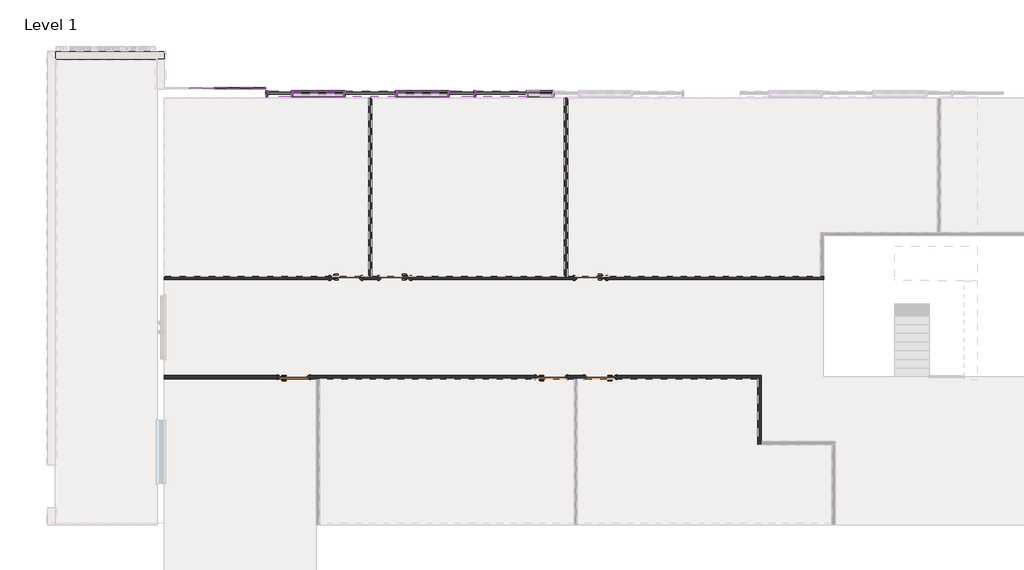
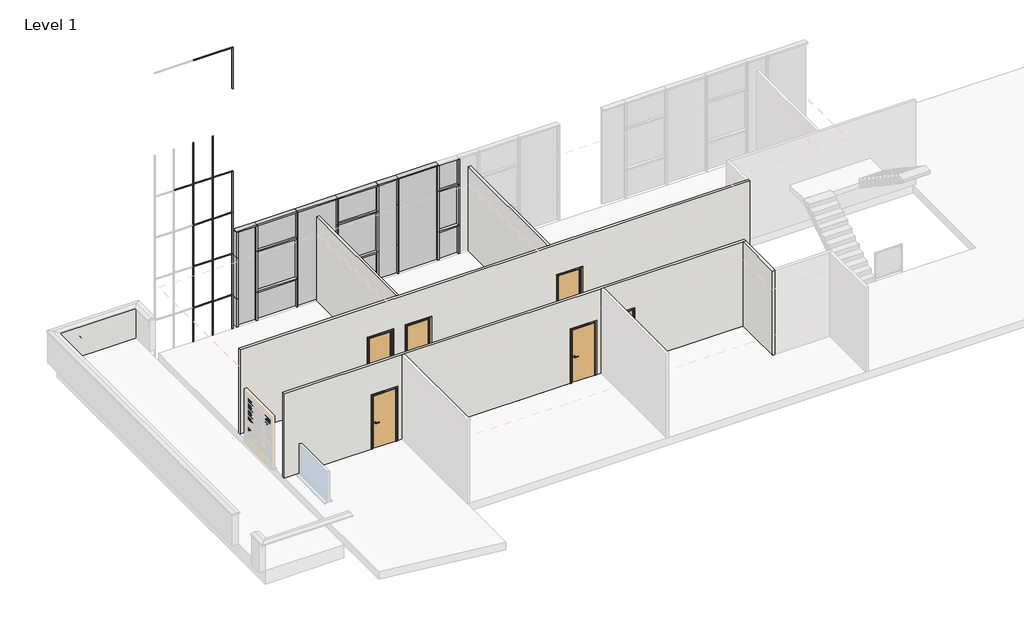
# One storey, part 4 of 10: 75 members, 13 plates, 6 doors, 6 walls.
"""IFC4 building model written with IfcOpenShell, lengths in millimetres."""

from ifc_helpers import new_model, si_unit, frame, origin, place, context, project, spatial, polyline, outline, extrude, faceted_brep, transform, mapped, element, save
from components import doors_intsgl_1_910x2110mm_004a08d5, doors_intsgl_1_910x2110mm_ba118736, rectangular_mullion_25x25mm_c4f1ea1c, rectangular_mullion_25x25mm_aa09272d, rectangular_mullion_25x25mm_87b81b05, rectangular_mullion_25x25mm_c524c6a9, rectangular_mullion_25x25mm_a3ff25c1, rectangular_mullion_25x25mm_a7b21d2d, rectangular_mullion_25x25mm_c63ed219, rectangular_mullion_50x180mm_27940352, rectangular_mullion_50x180mm_f781141c, rectangular_mullion_50x180mm_fd91253e, rectangular_mullion_50x180mm_cfc9efda, rectangular_mullion_50x180mm_c30fec06, rectangular_mullion_50x180mm_55b63a96, rectangular_mullion_50x180mm_7153291d, rectangular_mullion_50x180mm_95299f7d, rectangular_mullion_50x180mm_f19e9633, rectangular_mullion_50x180mm_b6846536, system_panel_black_panel_9c91f909, system_panel_black_panel_9e4711d2, system_panel_dark_grey_panel_1d6e0621, system_panel_glazed_dd63f223, system_panel_glazed_4915e1a0, system_panel_white_panel_6a64f577, system_panel_white_panel_a9ca731a, system_panel_white_panel_6c6c8c82, system_panel_white_panel_ff540c20

model = new_model("IFC4")

# Units and contexts
model_context = context("Model", 3, world=origin())
ifc_project = project(units=[si_unit("LENGTHUNIT", "METRE", prefix="MILLI")], contexts=[model_context])

# Site, building, storey
site = spatial("IfcSite", under=ifc_project)
building = spatial("IfcBuilding", under=site)
storey = spatial("IfcBuildingStorey", under=building, Name="Level 1", Elevation=3750.0)

# Doors
placement = place(None, origin())
doors_intsgl_1_910x2110mm_shape = doors_intsgl_1_910x2110mm_004a08d5(model_context)
element("IfcDoor", 1, ObjectType="Doors_IntSgl_1 : 910x2110mm", at=placement, inside=storey, context=model_context, shape_type="MappedRepresentation", body=[
    mapped(doors_intsgl_1_910x2110mm_shape, transform((3778.2942367, 3837.3025486, 3750.0), x_axis=(1.0, 0.0, 0.0), y_axis=(0.0, 1.0, 0.0), z_axis=(0.0, 0.0, 1.0))),
])
element("IfcDoor", 2, ObjectType="Doors_IntSgl_1 : 910x2110mm", at=placement, inside=storey, context=model_context, shape_type="MappedRepresentation", body=[
    mapped(doors_intsgl_1_910x2110mm_shape, transform((11085.7942367, 987.4946591, 3750.0), x_axis=(-1.0, 0.0, 0.0), y_axis=(0.0, -1.0, 0.0), z_axis=(0.0, 0.0, 1.0))),
])
doors_intsgl_1_910x2110mm_2_shape = doors_intsgl_1_910x2110mm_ba118736(model_context)
element("IfcDoor", 3, ObjectType="Doors_IntSgl_1 : 910x2110mm", at=placement, inside=storey, context=model_context, shape_type="MappedRepresentation", body=[
    mapped(doors_intsgl_1_910x2110mm_2_shape, transform((5183.2942367, 3837.3025486, 3750.0), x_axis=(-1.0, 0.0, 0.0), y_axis=(0.0, -1.0, 0.0), z_axis=(0.0, 0.0, 1.0))),
])
element("IfcDoor", 4, ObjectType="Doors_IntSgl_1 : 910x2110mm", at=placement, inside=storey, context=model_context, shape_type="MappedRepresentation", body=[
    mapped(doors_intsgl_1_910x2110mm_2_shape, transform((10808.2942367, 3837.3025486, 3750.0), x_axis=(-1.0, 0.0, 0.0), y_axis=(0.0, -1.0, 0.0), z_axis=(0.0, 0.0, 1.0))),
])
element("IfcDoor", 5, ObjectType="Doors_IntSgl_1 : 910x2110mm", at=placement, inside=storey, context=model_context, shape_type="MappedRepresentation", body=[
    mapped(doors_intsgl_1_910x2110mm_2_shape, transform((9680.7942367, 987.4946591, 3750.0), x_axis=(1.0, 0.0, 0.0), y_axis=(0.0, 1.0, 0.0), z_axis=(0.0, 0.0, 1.0))),
])
element("IfcDoor", 6, ObjectType="Doors_IntSgl_1 : 910x2110mm", at=placement, inside=storey, context=model_context, shape_type="MappedRepresentation", body=[
    mapped(doors_intsgl_1_910x2110mm_2_shape, transform((2280.7942367, 987.4946591, 3750.0), x_axis=(1.0, 0.0, 0.0), y_axis=(0.0, 1.0, 0.0), z_axis=(0.0, 0.0, 1.0))),
])

# Members
rectangular_mullion_25x25mm_shape = rectangular_mullion_25x25mm_c4f1ea1c(model_context)
element("IfcMember", 7, ObjectType="Rectangular Mullion : 25x25mm", at=placement, inside=storey, context=model_context, shape_type="MappedRepresentation", body=[
    mapped(rectangular_mullion_25x25mm_shape, transform((740.7900968, 9282.4946591, 14600.0), x_axis=(0.0, 0.0, 1.0), y_axis=(0.0, 1.0, 0.0), z_axis=(-1.0, 0.0, 0.0))),
])
rectangular_mullion_25x25mm_2_shape = rectangular_mullion_25x25mm_aa09272d(model_context)
element("IfcMember", 8, ObjectType="Rectangular Mullion : 25x25mm", at=placement, inside=storey, context=model_context, shape_type="MappedRepresentation", body=[
    mapped(rectangular_mullion_25x25mm_2_shape, transform((13.2859573, 9282.4946591, 14600.0), x_axis=(0.0, 0.0, 1.0), y_axis=(0.0, 1.0, 0.0), z_axis=(-1.0, 0.0, 0.0))),
])
element("IfcMember", 9, ObjectType="Rectangular Mullion : 25x25mm", at=placement, inside=storey, context=model_context, shape_type="MappedRepresentation", body=[
    mapped(rectangular_mullion_25x25mm_shape, transform((1480.7942367, 9282.4946591, 0.0), x_axis=(0.0, 0.0, -1.0), y_axis=(0.0, 1.0, 0.0), z_axis=(1.0, 0.0, 0.0))),
])
element("IfcMember", 10, ObjectType="Rectangular Mullion : 25x25mm", at=placement, inside=storey, context=model_context, shape_type="MappedRepresentation", body=[
    mapped(rectangular_mullion_25x25mm_2_shape, transform((740.7900968, 9282.4946591, 0.0), x_axis=(0.0, 0.0, -1.0), y_axis=(0.0, 1.0, 0.0), z_axis=(1.0, 0.0, 0.0))),
])
element("IfcMember", 11, ObjectType="Rectangular Mullion : 25x25mm", at=placement, inside=storey, context=model_context, shape_type="MappedRepresentation", body=[
    mapped(rectangular_mullion_25x25mm_2_shape, transform((13.2859573, 9282.4946591, 0.0), x_axis=(0.0, 0.0, -1.0), y_axis=(0.0, 1.0, 0.0), z_axis=(1.0, 0.0, 0.0))),
])
rectangular_mullion_25x25mm_3_shape = rectangular_mullion_25x25mm_87b81b05(model_context)
element("IfcMember", 12, ObjectType="Rectangular Mullion : 25x25mm", at=placement, inside=storey, context=model_context, shape_type="MappedRepresentation", body=[
    mapped(rectangular_mullion_25x25mm_3_shape, transform((753.2900968, 9282.4946591, 1631.9444444), x_axis=(0.0, 0.0, 1.0), y_axis=(0.0, 1.0, 0.0), z_axis=(-1.0, 0.0, 0.0))),
])
element("IfcMember", 13, ObjectType="Rectangular Mullion : 25x25mm", at=placement, inside=storey, context=model_context, shape_type="MappedRepresentation", body=[
    mapped(rectangular_mullion_25x25mm_3_shape, transform((25.7859573, 9282.4946591, 1631.9444444), x_axis=(0.0, 0.0, 1.0), y_axis=(0.0, 1.0, 0.0), z_axis=(-1.0, 0.0, 0.0))),
])
element("IfcMember", 14, ObjectType="Rectangular Mullion : 25x25mm", at=placement, inside=storey, context=model_context, shape_type="MappedRepresentation", body=[
    mapped(rectangular_mullion_25x25mm_3_shape, transform((753.2900968, 9282.4946591, 3251.3888889), x_axis=(0.0, 0.0, 1.0), y_axis=(0.0, 1.0, 0.0), z_axis=(-1.0, 0.0, 0.0))),
])
element("IfcMember", 15, ObjectType="Rectangular Mullion : 25x25mm", at=placement, inside=storey, context=model_context, shape_type="MappedRepresentation", body=[
    mapped(rectangular_mullion_25x25mm_3_shape, transform((25.7859573, 9282.4946591, 3251.3888889), x_axis=(0.0, 0.0, 1.0), y_axis=(0.0, 1.0, 0.0), z_axis=(-1.0, 0.0, 0.0))),
])
element("IfcMember", 16, ObjectType="Rectangular Mullion : 25x25mm", at=placement, inside=storey, context=model_context, shape_type="MappedRepresentation", body=[
    mapped(rectangular_mullion_25x25mm_3_shape, transform((753.2900968, 9282.4946591, 4870.8333333), x_axis=(0.0, 0.0, 1.0), y_axis=(0.0, 1.0, 0.0), z_axis=(-1.0, 0.0, 0.0))),
])
element("IfcMember", 17, ObjectType="Rectangular Mullion : 25x25mm", at=placement, inside=storey, context=model_context, shape_type="MappedRepresentation", body=[
    mapped(rectangular_mullion_25x25mm_3_shape, transform((25.7859573, 9282.4946591, 4870.8333333), x_axis=(0.0, 0.0, 1.0), y_axis=(0.0, 1.0, 0.0), z_axis=(-1.0, 0.0, 0.0))),
])
element("IfcMember", 18, ObjectType="Rectangular Mullion : 25x25mm", at=placement, inside=storey, context=model_context, shape_type="MappedRepresentation", body=[
    mapped(rectangular_mullion_25x25mm_3_shape, transform((753.2900968, 9282.4946591, 6490.2777778), x_axis=(0.0, 0.0, 1.0), y_axis=(0.0, 1.0, 0.0), z_axis=(-1.0, 0.0, 0.0))),
])
element("IfcMember", 19, ObjectType="Rectangular Mullion : 25x25mm", at=placement, inside=storey, context=model_context, shape_type="MappedRepresentation", body=[
    mapped(rectangular_mullion_25x25mm_3_shape, transform((25.7859573, 9282.4946591, 6490.2777778), x_axis=(0.0, 0.0, 1.0), y_axis=(0.0, 1.0, 0.0), z_axis=(-1.0, 0.0, 0.0))),
])
element("IfcMember", 20, ObjectType="Rectangular Mullion : 25x25mm", at=placement, inside=storey, context=model_context, shape_type="MappedRepresentation", body=[
    mapped(rectangular_mullion_25x25mm_3_shape, transform((753.2900968, 9282.4946591, 8109.7222222), x_axis=(0.0, 0.0, 1.0), y_axis=(0.0, 1.0, 0.0), z_axis=(-1.0, 0.0, 0.0))),
])
element("IfcMember", 21, ObjectType="Rectangular Mullion : 25x25mm", at=placement, inside=storey, context=model_context, shape_type="MappedRepresentation", body=[
    mapped(rectangular_mullion_25x25mm_3_shape, transform((25.7859573, 9282.4946591, 8109.7222222), x_axis=(0.0, 0.0, 1.0), y_axis=(0.0, 1.0, 0.0), z_axis=(-1.0, 0.0, 0.0))),
])
element("IfcMember", 22, ObjectType="Rectangular Mullion : 25x25mm", at=placement, inside=storey, context=model_context, shape_type="MappedRepresentation", body=[
    mapped(rectangular_mullion_25x25mm_3_shape, transform((753.2900968, 9282.4946591, 9729.1666667), x_axis=(0.0, 0.0, 1.0), y_axis=(0.0, 1.0, 0.0), z_axis=(-1.0, 0.0, 0.0))),
])
element("IfcMember", 23, ObjectType="Rectangular Mullion : 25x25mm", at=placement, inside=storey, context=model_context, shape_type="MappedRepresentation", body=[
    mapped(rectangular_mullion_25x25mm_3_shape, transform((25.7859573, 9282.4946591, 9729.1666667), x_axis=(0.0, 0.0, 1.0), y_axis=(0.0, 1.0, 0.0), z_axis=(-1.0, 0.0, 0.0))),
])
element("IfcMember", 24, ObjectType="Rectangular Mullion : 25x25mm", at=placement, inside=storey, context=model_context, shape_type="MappedRepresentation", body=[
    mapped(rectangular_mullion_25x25mm_3_shape, transform((-701.7181823, 9282.4946591, 9729.1666667), x_axis=(0.0, 0.0, 1.0), y_axis=(0.0, 1.0, 0.0), z_axis=(-1.0, 0.0, 0.0))),
])
rectangular_mullion_25x25mm_4_shape = rectangular_mullion_25x25mm_c524c6a9(model_context)
element("IfcMember", 25, ObjectType="Rectangular Mullion : 25x25mm", at=placement, inside=storey, context=model_context, shape_type="MappedRepresentation", body=[
    mapped(rectangular_mullion_25x25mm_4_shape, transform((740.7900968, 9282.4946591, 25.0), x_axis=(-1.0, 0.0, 0.0), y_axis=(0.0, 1.0, 0.0), z_axis=(0.0, 0.0, -1.0))),
])
element("IfcMember", 26, ObjectType="Rectangular Mullion : 25x25mm", at=placement, inside=storey, context=model_context, shape_type="MappedRepresentation", body=[
    mapped(rectangular_mullion_25x25mm_4_shape, transform((13.2859573, 9282.4946591, 25.0), x_axis=(-1.0, 0.0, 0.0), y_axis=(0.0, 1.0, 0.0), z_axis=(0.0, 0.0, -1.0))),
])
rectangular_mullion_25x25mm_5_shape = rectangular_mullion_25x25mm_a3ff25c1(model_context)
element("IfcMember", 27, ObjectType="Rectangular Mullion : 25x25mm", at=placement, inside=storey, context=model_context, shape_type="MappedRepresentation", body=[
    mapped(rectangular_mullion_25x25mm_5_shape, transform((740.7900968, 9282.4946591, 1631.9444444), x_axis=(-1.0, 0.0, 0.0), y_axis=(0.0, 1.0, 0.0), z_axis=(0.0, 0.0, -1.0))),
])
element("IfcMember", 28, ObjectType="Rectangular Mullion : 25x25mm", at=placement, inside=storey, context=model_context, shape_type="MappedRepresentation", body=[
    mapped(rectangular_mullion_25x25mm_5_shape, transform((740.7900968, 9282.4946591, 3251.3888889), x_axis=(-1.0, 0.0, 0.0), y_axis=(0.0, 1.0, 0.0), z_axis=(0.0, 0.0, -1.0))),
])
element("IfcMember", 29, ObjectType="Rectangular Mullion : 25x25mm", at=placement, inside=storey, context=model_context, shape_type="MappedRepresentation", body=[
    mapped(rectangular_mullion_25x25mm_5_shape, transform((740.7900968, 9282.4946591, 4870.8333333), x_axis=(-1.0, 0.0, 0.0), y_axis=(0.0, 1.0, 0.0), z_axis=(0.0, 0.0, -1.0))),
])
element("IfcMember", 30, ObjectType="Rectangular Mullion : 25x25mm", at=placement, inside=storey, context=model_context, shape_type="MappedRepresentation", body=[
    mapped(rectangular_mullion_25x25mm_5_shape, transform((740.7900968, 9282.4946591, 6490.2777778), x_axis=(-1.0, 0.0, 0.0), y_axis=(0.0, 1.0, 0.0), z_axis=(0.0, 0.0, -1.0))),
])
element("IfcMember", 31, ObjectType="Rectangular Mullion : 25x25mm", at=placement, inside=storey, context=model_context, shape_type="MappedRepresentation", body=[
    mapped(rectangular_mullion_25x25mm_5_shape, transform((13.2859573, 9282.4946591, 1631.9444444), x_axis=(-1.0, 0.0, 0.0), y_axis=(0.0, 1.0, 0.0), z_axis=(0.0, 0.0, -1.0))),
])
element("IfcMember", 32, ObjectType="Rectangular Mullion : 25x25mm", at=placement, inside=storey, context=model_context, shape_type="MappedRepresentation", body=[
    mapped(rectangular_mullion_25x25mm_5_shape, transform((13.2859573, 9282.4946591, 3251.3888889), x_axis=(-1.0, 0.0, 0.0), y_axis=(0.0, 1.0, 0.0), z_axis=(0.0, 0.0, -1.0))),
])
element("IfcMember", 33, ObjectType="Rectangular Mullion : 25x25mm", at=placement, inside=storey, context=model_context, shape_type="MappedRepresentation", body=[
    mapped(rectangular_mullion_25x25mm_5_shape, transform((13.2859573, 9282.4946591, 4870.8333333), x_axis=(-1.0, 0.0, 0.0), y_axis=(0.0, 1.0, 0.0), z_axis=(0.0, 0.0, -1.0))),
])
element("IfcMember", 34, ObjectType="Rectangular Mullion : 25x25mm", at=placement, inside=storey, context=model_context, shape_type="MappedRepresentation", body=[
    mapped(rectangular_mullion_25x25mm_5_shape, transform((13.2859573, 9282.4946591, 6490.2777778), x_axis=(-1.0, 0.0, 0.0), y_axis=(0.0, 1.0, 0.0), z_axis=(0.0, 0.0, -1.0))),
])
element("IfcMember", 35, ObjectType="Rectangular Mullion : 25x25mm", at=placement, inside=storey, context=model_context, shape_type="MappedRepresentation", body=[
    mapped(rectangular_mullion_25x25mm_5_shape, transform((740.7900968, 9282.4946591, 8109.7222222), x_axis=(-1.0, 0.0, 0.0), y_axis=(0.0, 1.0, 0.0), z_axis=(0.0, 0.0, -1.0))),
])
element("IfcMember", 36, ObjectType="Rectangular Mullion : 25x25mm", at=placement, inside=storey, context=model_context, shape_type="MappedRepresentation", body=[
    mapped(rectangular_mullion_25x25mm_5_shape, transform((740.7900968, 9282.4946591, 9729.1666667), x_axis=(-1.0, 0.0, 0.0), y_axis=(0.0, 1.0, 0.0), z_axis=(0.0, 0.0, -1.0))),
])
element("IfcMember", 37, ObjectType="Rectangular Mullion : 25x25mm", at=placement, inside=storey, context=model_context, shape_type="MappedRepresentation", body=[
    mapped(rectangular_mullion_25x25mm_5_shape, transform((13.2859573, 9282.4946591, 8109.7222222), x_axis=(-1.0, 0.0, 0.0), y_axis=(0.0, 1.0, 0.0), z_axis=(0.0, 0.0, -1.0))),
])
element("IfcMember", 38, ObjectType="Rectangular Mullion : 25x25mm", at=placement, inside=storey, context=model_context, shape_type="MappedRepresentation", body=[
    mapped(rectangular_mullion_25x25mm_5_shape, transform((13.2859573, 9282.4946591, 9729.1666667), x_axis=(-1.0, 0.0, 0.0), y_axis=(0.0, 1.0, 0.0), z_axis=(0.0, 0.0, -1.0))),
])
rectangular_mullion_25x25mm_6_shape = rectangular_mullion_25x25mm_a7b21d2d(model_context)
element("IfcMember", 39, ObjectType="Rectangular Mullion : 25x25mm", at=placement, inside=storey, context=model_context, shape_type="MappedRepresentation", body=[
    mapped(rectangular_mullion_25x25mm_6_shape, transform((1480.7942367, 9282.4946591, 1631.9444444), x_axis=(1.0, 0.0, 0.0), y_axis=(0.0, 1.0, 0.0), z_axis=(0.0, 0.0, 1.0))),
])
rectangular_mullion_25x25mm_7_shape = rectangular_mullion_25x25mm_c63ed219(model_context)
element("IfcMember", 40, ObjectType="Rectangular Mullion : 25x25mm", at=placement, inside=storey, context=model_context, shape_type="MappedRepresentation", body=[
    mapped(rectangular_mullion_25x25mm_7_shape, transform((1480.7942367, 9282.4946591, 3251.3888889), x_axis=(1.0, 0.0, 0.0), y_axis=(0.0, 1.0, 0.0), z_axis=(0.0, 0.0, 1.0))),
])
element("IfcMember", 41, ObjectType="Rectangular Mullion : 25x25mm", at=placement, inside=storey, context=model_context, shape_type="MappedRepresentation", body=[
    mapped(rectangular_mullion_25x25mm_7_shape, transform((1480.7942367, 9282.4946591, 4870.8333333), x_axis=(1.0, 0.0, 0.0), y_axis=(0.0, 1.0, 0.0), z_axis=(0.0, 0.0, 1.0))),
])
element("IfcMember", 42, ObjectType="Rectangular Mullion : 25x25mm", at=placement, inside=storey, context=model_context, shape_type="MappedRepresentation", body=[
    mapped(rectangular_mullion_25x25mm_7_shape, transform((1480.7942367, 9282.4946591, 6490.2777778), x_axis=(1.0, 0.0, 0.0), y_axis=(0.0, 1.0, 0.0), z_axis=(0.0, 0.0, 1.0))),
])
element("IfcMember", 43, ObjectType="Rectangular Mullion : 25x25mm", at=placement, inside=storey, context=model_context, shape_type="MappedRepresentation", body=[
    mapped(rectangular_mullion_25x25mm_7_shape, transform((1480.7942367, 9282.4946591, 8109.7222222), x_axis=(1.0, 0.0, 0.0), y_axis=(0.0, 1.0, 0.0), z_axis=(0.0, 0.0, 1.0))),
])
element("IfcMember", 44, ObjectType="Rectangular Mullion : 25x25mm", at=placement, inside=storey, context=model_context, shape_type="MappedRepresentation", body=[
    mapped(rectangular_mullion_25x25mm_7_shape, transform((1480.7942367, 9282.4946591, 9729.1666667), x_axis=(1.0, 0.0, 0.0), y_axis=(0.0, 1.0, 0.0), z_axis=(0.0, 0.0, 1.0))),
])
element("IfcMember", 45, ObjectType="Rectangular Mullion : 25x25mm", at=placement, inside=storey, context=model_context, shape_type="MappedRepresentation", body=[
    mapped(rectangular_mullion_25x25mm_6_shape, transform((1480.7942367, 9282.4946591, 14575.0), x_axis=(1.0, 0.0, 0.0), y_axis=(0.0, 1.0, 0.0), z_axis=(0.0, 0.0, 1.0))),
])
rectangular_mullion_50x180mm_shape = rectangular_mullion_50x180mm_27940352(model_context)
element("IfcMember", 46, ObjectType="Rectangular Mullion : 50x180mm", at=placement, inside=storey, context=model_context, shape_type="MappedRepresentation", body=[
    mapped(rectangular_mullion_50x180mm_shape, transform((9730.7942367, 9132.4946591, 3750.0), x_axis=(1.0, 0.0, 0.0), y_axis=(0.0, -1.0, 0.0), z_axis=(0.0, 0.0, -1.0))),
])
element("IfcMember", 47, ObjectType="Rectangular Mullion : 50x180mm", at=placement, inside=storey, context=model_context, shape_type="MappedRepresentation", body=[
    mapped(rectangular_mullion_50x180mm_shape, transform((8980.7942367, 9132.4946591, 3750.0), x_axis=(1.0, 0.0, 0.0), y_axis=(0.0, -1.0, 0.0), z_axis=(0.0, 0.0, -1.0))),
])
element("IfcMember", 48, ObjectType="Rectangular Mullion : 50x180mm", at=placement, inside=storey, context=model_context, shape_type="MappedRepresentation", body=[
    mapped(rectangular_mullion_50x180mm_shape, transform((6730.7942367, 9132.4946591, 3750.0), x_axis=(1.0, 0.0, 0.0), y_axis=(0.0, -1.0, 0.0), z_axis=(0.0, 0.0, -1.0))),
])
element("IfcMember", 49, ObjectType="Rectangular Mullion : 50x180mm", at=placement, inside=storey, context=model_context, shape_type="MappedRepresentation", body=[
    mapped(rectangular_mullion_50x180mm_shape, transform((5230.7942367, 9132.4946591, 3750.0), x_axis=(1.0, 0.0, 0.0), y_axis=(0.0, -1.0, 0.0), z_axis=(0.0, 0.0, -1.0))),
])
element("IfcMember", 50, ObjectType="Rectangular Mullion : 50x180mm", at=placement, inside=storey, context=model_context, shape_type="MappedRepresentation", body=[
    mapped(rectangular_mullion_50x180mm_shape, transform((2230.7942367, 9132.4946591, 3750.0), x_axis=(1.0, 0.0, 0.0), y_axis=(0.0, -1.0, 0.0), z_axis=(0.0, 0.0, -1.0))),
])
element("IfcMember", 51, ObjectType="Rectangular Mullion : 50x180mm", at=placement, inside=storey, context=model_context, shape_type="MappedRepresentation", body=[
    mapped(rectangular_mullion_50x180mm_shape, transform((3730.7942367, 9132.4946591, 3750.0), x_axis=(1.0, 0.0, 0.0), y_axis=(0.0, -1.0, 0.0), z_axis=(0.0, 0.0, -1.0))),
])
element("IfcMember", 52, ObjectType="Rectangular Mullion : 50x180mm", at=placement, inside=storey, context=model_context, shape_type="MappedRepresentation", body=[
    mapped(rectangular_mullion_50x180mm_shape, transform((7480.7942367, 9132.4946591, 3750.0), x_axis=(1.0, 0.0, 0.0), y_axis=(0.0, -1.0, 0.0), z_axis=(0.0, 0.0, -1.0))),
])
rectangular_mullion_50x180mm_2_shape = rectangular_mullion_50x180mm_f781141c(model_context)
element("IfcMember", 53, ObjectType="Rectangular Mullion : 50x180mm", at=placement, inside=storey, context=model_context, shape_type="MappedRepresentation", body=[
    mapped(rectangular_mullion_50x180mm_2_shape, transform((2230.7942367, 9132.4946591, 4850.0), x_axis=(1.0, 0.0, 0.0), y_axis=(0.0, -1.0, 0.0), z_axis=(0.0, 0.0, -1.0))),
])
element("IfcMember", 54, ObjectType="Rectangular Mullion : 50x180mm", at=placement, inside=storey, context=model_context, shape_type="MappedRepresentation", body=[
    mapped(rectangular_mullion_50x180mm_2_shape, transform((3730.7942367, 9132.4946591, 4850.0), x_axis=(1.0, 0.0, 0.0), y_axis=(0.0, -1.0, 0.0), z_axis=(0.0, 0.0, -1.0))),
])
element("IfcMember", 55, ObjectType="Rectangular Mullion : 50x180mm", at=placement, inside=storey, context=model_context, shape_type="MappedRepresentation", body=[
    mapped(rectangular_mullion_50x180mm_2_shape, transform((5230.7942367, 9132.4946591, 4850.0), x_axis=(1.0, 0.0, 0.0), y_axis=(0.0, -1.0, 0.0), z_axis=(0.0, 0.0, -1.0))),
])
element("IfcMember", 56, ObjectType="Rectangular Mullion : 50x180mm", at=placement, inside=storey, context=model_context, shape_type="MappedRepresentation", body=[
    mapped(rectangular_mullion_50x180mm_2_shape, transform((6730.7942367, 9132.4946591, 4850.0), x_axis=(1.0, 0.0, 0.0), y_axis=(0.0, -1.0, 0.0), z_axis=(0.0, 0.0, -1.0))),
])
element("IfcMember", 57, ObjectType="Rectangular Mullion : 50x180mm", at=placement, inside=storey, context=model_context, shape_type="MappedRepresentation", body=[
    mapped(rectangular_mullion_50x180mm_2_shape, transform((8980.7942367, 9132.4946591, 4850.0), x_axis=(1.0, 0.0, 0.0), y_axis=(0.0, -1.0, 0.0), z_axis=(0.0, 0.0, -1.0))),
])
element("IfcMember", 58, ObjectType="Rectangular Mullion : 50x180mm", at=placement, inside=storey, context=model_context, shape_type="MappedRepresentation", body=[
    mapped(rectangular_mullion_50x180mm_2_shape, transform((9730.7942367, 9132.4946591, 4850.0), x_axis=(1.0, 0.0, 0.0), y_axis=(0.0, -1.0, 0.0), z_axis=(0.0, 0.0, -1.0))),
])
element("IfcMember", 59, ObjectType="Rectangular Mullion : 50x180mm", at=placement, inside=storey, context=model_context, shape_type="MappedRepresentation", body=[
    mapped(rectangular_mullion_50x180mm_2_shape, transform((7480.7942367, 9132.4946591, 4850.0), x_axis=(1.0, 0.0, 0.0), y_axis=(0.0, -1.0, 0.0), z_axis=(0.0, 0.0, -1.0))),
])
rectangular_mullion_50x180mm_3_shape = rectangular_mullion_50x180mm_fd91253e(model_context)
element("IfcMember", 60, ObjectType="Rectangular Mullion : 50x180mm", at=placement, inside=storey, context=model_context, shape_type="MappedRepresentation", body=[
    mapped(rectangular_mullion_50x180mm_3_shape, transform((3705.7942367, 9132.4946591, 4850.0), x_axis=(0.0, 0.0, 1.0), y_axis=(0.0, -1.0, 0.0), z_axis=(1.0, 0.0, 0.0))),
])
element("IfcMember", 61, ObjectType="Rectangular Mullion : 50x180mm", at=placement, inside=storey, context=model_context, shape_type="MappedRepresentation", body=[
    mapped(rectangular_mullion_50x180mm_3_shape, transform((6705.7942367, 9132.4946591, 4850.0), x_axis=(0.0, 0.0, 1.0), y_axis=(0.0, -1.0, 0.0), z_axis=(1.0, 0.0, 0.0))),
])
element("IfcMember", 62, ObjectType="Rectangular Mullion : 50x180mm", at=placement, inside=storey, context=model_context, shape_type="MappedRepresentation", body=[
    mapped(rectangular_mullion_50x180mm_3_shape, transform((3705.7942367, 9132.4946591, 6450.0), x_axis=(0.0, 0.0, 1.0), y_axis=(0.0, -1.0, 0.0), z_axis=(1.0, 0.0, 0.0))),
])
element("IfcMember", 63, ObjectType="Rectangular Mullion : 50x180mm", at=placement, inside=storey, context=model_context, shape_type="MappedRepresentation", body=[
    mapped(rectangular_mullion_50x180mm_3_shape, transform((6705.7942367, 9132.4946591, 6450.0), x_axis=(0.0, 0.0, 1.0), y_axis=(0.0, -1.0, 0.0), z_axis=(1.0, 0.0, 0.0))),
])
rectangular_mullion_50x180mm_4_shape = rectangular_mullion_50x180mm_cfc9efda(model_context)
element("IfcMember", 64, ObjectType="Rectangular Mullion : 50x180mm", at=placement, inside=storey, context=model_context, shape_type="MappedRepresentation", body=[
    mapped(rectangular_mullion_50x180mm_4_shape, transform((9705.7942367, 9132.4946591, 6450.0), x_axis=(0.0, 0.0, 1.0), y_axis=(0.0, -1.0, 0.0), z_axis=(1.0, 0.0, 0.0))),
])
element("IfcMember", 65, ObjectType="Rectangular Mullion : 50x180mm", at=placement, inside=storey, context=model_context, shape_type="MappedRepresentation", body=[
    mapped(rectangular_mullion_50x180mm_4_shape, transform((9705.7942367, 9132.4946591, 4850.0), x_axis=(0.0, 0.0, 1.0), y_axis=(0.0, -1.0, 0.0), z_axis=(1.0, 0.0, 0.0))),
])
rectangular_mullion_50x180mm_5_shape = rectangular_mullion_50x180mm_c30fec06(model_context)
element("IfcMember", 66, ObjectType="Rectangular Mullion : 50x180mm", at=placement, inside=storey, context=model_context, shape_type="MappedRepresentation", body=[
    mapped(rectangular_mullion_50x180mm_5_shape, transform((3730.7942367, 9132.4946591, 7500.0), x_axis=(0.0, 0.0, 1.0), y_axis=(0.0, -1.0, 0.0), z_axis=(1.0, 0.0, 0.0))),
])
element("IfcMember", 67, ObjectType="Rectangular Mullion : 50x180mm", at=placement, inside=storey, context=model_context, shape_type="MappedRepresentation", body=[
    mapped(rectangular_mullion_50x180mm_5_shape, transform((5230.7942367, 9132.4946591, 7500.0), x_axis=(0.0, 0.0, 1.0), y_axis=(0.0, -1.0, 0.0), z_axis=(1.0, 0.0, 0.0))),
])
element("IfcMember", 68, ObjectType="Rectangular Mullion : 50x180mm", at=placement, inside=storey, context=model_context, shape_type="MappedRepresentation", body=[
    mapped(rectangular_mullion_50x180mm_5_shape, transform((6730.7942367, 9132.4946591, 7500.0), x_axis=(0.0, 0.0, 1.0), y_axis=(0.0, -1.0, 0.0), z_axis=(1.0, 0.0, 0.0))),
])
element("IfcMember", 69, ObjectType="Rectangular Mullion : 50x180mm", at=placement, inside=storey, context=model_context, shape_type="MappedRepresentation", body=[
    mapped(rectangular_mullion_50x180mm_5_shape, transform((8980.7942367, 9132.4946591, 7500.0), x_axis=(0.0, 0.0, 1.0), y_axis=(0.0, -1.0, 0.0), z_axis=(1.0, 0.0, 0.0))),
])
rectangular_mullion_50x180mm_6_shape = rectangular_mullion_50x180mm_55b63a96(model_context)
element("IfcMember", 70, ObjectType="Rectangular Mullion : 50x180mm", at=placement, inside=storey, context=model_context, shape_type="MappedRepresentation", body=[
    mapped(rectangular_mullion_50x180mm_6_shape, transform((7480.7942367, 9132.4946591, 7500.0), x_axis=(0.0, 0.0, 1.0), y_axis=(0.0, -1.0, 0.0), z_axis=(1.0, 0.0, 0.0))),
])
rectangular_mullion_50x180mm_7_shape = rectangular_mullion_50x180mm_7153291d(model_context)
element("IfcMember", 71, ObjectType="Rectangular Mullion : 50x180mm", at=placement, inside=storey, context=model_context, shape_type="MappedRepresentation", body=[
    mapped(rectangular_mullion_50x180mm_7_shape, transform((1480.7942367, 9132.4946591, 4850.0), x_axis=(-1.0, 0.0, 0.0), y_axis=(0.0, -1.0, 0.0), z_axis=(0.0, 0.0, 1.0))),
])
rectangular_mullion_50x180mm_8_shape = rectangular_mullion_50x180mm_95299f7d(model_context)
element("IfcMember", 72, ObjectType="Rectangular Mullion : 50x180mm", at=placement, inside=storey, context=model_context, shape_type="MappedRepresentation", body=[
    mapped(rectangular_mullion_50x180mm_8_shape, transform((1480.7942367, 9132.4946591, 6450.0), x_axis=(-1.0, 0.0, 0.0), y_axis=(0.0, -1.0, 0.0), z_axis=(0.0, 0.0, 1.0))),
])
element("IfcMember", 73, ObjectType="Rectangular Mullion : 50x180mm", at=placement, inside=storey, context=model_context, shape_type="MappedRepresentation", body=[
    mapped(rectangular_mullion_50x180mm_6_shape, transform((2230.7942367, 9132.4946591, 7500.0), x_axis=(0.0, 0.0, 1.0), y_axis=(0.0, -1.0, 0.0), z_axis=(1.0, 0.0, 0.0))),
])
rectangular_mullion_50x180mm_9_shape = rectangular_mullion_50x180mm_f19e9633(model_context)
element("IfcMember", 74, ObjectType="Rectangular Mullion : 50x180mm", at=placement, inside=storey, context=model_context, shape_type="MappedRepresentation", body=[
    mapped(rectangular_mullion_50x180mm_9_shape, transform((8980.7942367, 9132.4946591, 6450.0), x_axis=(1.0, 0.0, 0.0), y_axis=(0.0, -1.0, 0.0), z_axis=(0.0, 0.0, -1.0))),
])
element("IfcMember", 75, ObjectType="Rectangular Mullion : 50x180mm", at=placement, inside=storey, context=model_context, shape_type="MappedRepresentation", body=[
    mapped(rectangular_mullion_50x180mm_9_shape, transform((9730.7942367, 9132.4946591, 6450.0), x_axis=(1.0, 0.0, 0.0), y_axis=(0.0, -1.0, 0.0), z_axis=(0.0, 0.0, -1.0))),
])
element("IfcMember", 76, ObjectType="Rectangular Mullion : 50x180mm", at=placement, inside=storey, context=model_context, shape_type="MappedRepresentation", body=[
    mapped(rectangular_mullion_50x180mm_9_shape, transform((6730.7942367, 9132.4946591, 6450.0), x_axis=(1.0, 0.0, 0.0), y_axis=(0.0, -1.0, 0.0), z_axis=(0.0, 0.0, -1.0))),
])
element("IfcMember", 77, ObjectType="Rectangular Mullion : 50x180mm", at=placement, inside=storey, context=model_context, shape_type="MappedRepresentation", body=[
    mapped(rectangular_mullion_50x180mm_9_shape, transform((5230.7942367, 9132.4946591, 6450.0), x_axis=(1.0, 0.0, 0.0), y_axis=(0.0, -1.0, 0.0), z_axis=(0.0, 0.0, -1.0))),
])
element("IfcMember", 78, ObjectType="Rectangular Mullion : 50x180mm", at=placement, inside=storey, context=model_context, shape_type="MappedRepresentation", body=[
    mapped(rectangular_mullion_50x180mm_9_shape, transform((2230.7942367, 9132.4946591, 6450.0), x_axis=(1.0, 0.0, 0.0), y_axis=(0.0, -1.0, 0.0), z_axis=(0.0, 0.0, -1.0))),
])
element("IfcMember", 79, ObjectType="Rectangular Mullion : 50x180mm", at=placement, inside=storey, context=model_context, shape_type="MappedRepresentation", body=[
    mapped(rectangular_mullion_50x180mm_9_shape, transform((3730.7942367, 9132.4946591, 6450.0), x_axis=(1.0, 0.0, 0.0), y_axis=(0.0, -1.0, 0.0), z_axis=(0.0, 0.0, -1.0))),
])
element("IfcMember", 80, ObjectType="Rectangular Mullion : 50x180mm", at=placement, inside=storey, context=model_context, shape_type="MappedRepresentation", body=[
    mapped(rectangular_mullion_50x180mm_9_shape, transform((7480.7942367, 9132.4946591, 6450.0), x_axis=(1.0, 0.0, 0.0), y_axis=(0.0, -1.0, 0.0), z_axis=(0.0, 0.0, -1.0))),
])
rectangular_mullion_50x180mm_10_shape = rectangular_mullion_50x180mm_b6846536(model_context)
element("IfcMember", 81, ObjectType="Rectangular Mullion : 50x180mm", at=placement, inside=storey, context=model_context, shape_type="MappedRepresentation", body=[
    mapped(rectangular_mullion_50x180mm_10_shape, transform((1480.7942367, 9132.4946591, 7450.0), x_axis=(-1.0, 0.0, 0.0), y_axis=(0.0, -1.0, 0.0), z_axis=(0.0, 0.0, 1.0))),
])

# Plates
system_panel_black_panel_shape = system_panel_black_panel_9c91f909(model_context)
element("IfcPlate", 82, ObjectType="System Panel : Black-Panel", at=placement, inside=storey, context=model_context, shape_type="MappedRepresentation", body=[
    mapped(system_panel_black_panel_shape, transform((1868.2942367, 9132.4946591, 3750.0), x_axis=(1.0, 0.0, 0.0), y_axis=(0.0, 1.0, 0.0), z_axis=(0.0, 0.0, 1.0))),
])
system_panel_black_panel_2_shape = system_panel_black_panel_9e4711d2(model_context)
element("IfcPlate", 83, ObjectType="System Panel : Black-Panel", at=placement, inside=storey, context=model_context, shape_type="MappedRepresentation", body=[
    mapped(system_panel_black_panel_2_shape, transform((7105.7942367, 9132.4946591, 3750.0), x_axis=(1.0, 0.0, 0.0), y_axis=(0.0, 1.0, 0.0), z_axis=(0.0, 0.0, 1.0))),
])
system_panel_dark_grey_panel_shape = system_panel_dark_grey_panel_1d6e0621(model_context)
element("IfcPlate", 84, ObjectType="System Panel : Dark Grey-Panel", at=placement, inside=storey, context=model_context, shape_type="MappedRepresentation", body=[
    mapped(system_panel_dark_grey_panel_shape, transform((8230.7942367, 9132.4946591, 3750.0), x_axis=(1.0, 0.0, 0.0), y_axis=(0.0, 1.0, 0.0), z_axis=(0.0, 0.0, 1.0))),
])
element("IfcPlate", 85, ObjectType="System Panel : Dark Grey-Panel", at=placement, inside=storey, context=model_context, shape_type="MappedRepresentation", body=[
    mapped(system_panel_dark_grey_panel_shape, transform((4480.7942367, 9132.4946591, 3750.0), x_axis=(1.0, 0.0, 0.0), y_axis=(0.0, 1.0, 0.0), z_axis=(0.0, 0.0, 1.0))),
])
system_panel_glazed_shape = system_panel_glazed_dd63f223(model_context)
element("IfcPlate", 86, ObjectType="System Panel : Glazed", at=placement, inside=storey, context=model_context, shape_type="MappedRepresentation", body=[
    mapped(system_panel_glazed_shape, transform((9355.7942367, 9132.4946591, 4875.0), x_axis=(1.0, 0.0, 0.0), y_axis=(0.0, 1.0, 0.0), z_axis=(0.0, 0.0, 1.0))),
])
system_panel_glazed_2_shape = system_panel_glazed_4915e1a0(model_context)
element("IfcPlate", 87, ObjectType="System Panel : Glazed", at=placement, inside=storey, context=model_context, shape_type="MappedRepresentation", body=[
    mapped(system_panel_glazed_2_shape, transform((5980.7942367, 9132.4946591, 4875.0), x_axis=(1.0, 0.0, 0.0), y_axis=(0.0, 1.0, 0.0), z_axis=(0.0, 0.0, 1.0))),
])
element("IfcPlate", 88, ObjectType="System Panel : Glazed", at=placement, inside=storey, context=model_context, shape_type="MappedRepresentation", body=[
    mapped(system_panel_glazed_2_shape, transform((2980.7942367, 9132.4946591, 4875.0), x_axis=(1.0, 0.0, 0.0), y_axis=(0.0, 1.0, 0.0), z_axis=(0.0, 0.0, 1.0))),
])
system_panel_white_panel_shape = system_panel_white_panel_6a64f577(model_context)
element("IfcPlate", 89, ObjectType="System Panel : White-Panel", at=placement, inside=storey, context=model_context, shape_type="MappedRepresentation", body=[
    mapped(system_panel_white_panel_shape, transform((5980.7942367, 9132.4946591, 3750.0), x_axis=(1.0, 0.0, 0.0), y_axis=(0.0, 1.0, 0.0), z_axis=(0.0, 0.0, 1.0))),
])
element("IfcPlate", 90, ObjectType="System Panel : White-Panel", at=placement, inside=storey, context=model_context, shape_type="MappedRepresentation", body=[
    mapped(system_panel_white_panel_shape, transform((2980.7942367, 9132.4946591, 3750.0), x_axis=(1.0, 0.0, 0.0), y_axis=(0.0, 1.0, 0.0), z_axis=(0.0, 0.0, 1.0))),
])
system_panel_white_panel_2_shape = system_panel_white_panel_a9ca731a(model_context)
element("IfcPlate", 91, ObjectType="System Panel : White-Panel", at=placement, inside=storey, context=model_context, shape_type="MappedRepresentation", body=[
    mapped(system_panel_white_panel_2_shape, transform((9355.7942367, 9132.4946591, 3750.0), x_axis=(1.0, 0.0, 0.0), y_axis=(0.0, 1.0, 0.0), z_axis=(0.0, 0.0, 1.0))),
])
system_panel_white_panel_3_shape = system_panel_white_panel_6c6c8c82(model_context)
element("IfcPlate", 92, ObjectType="System Panel : White-Panel", at=placement, inside=storey, context=model_context, shape_type="MappedRepresentation", body=[
    mapped(system_panel_white_panel_3_shape, transform((9355.7942367, 9132.4946591, 6475.0), x_axis=(1.0, 0.0, 0.0), y_axis=(0.0, 1.0, 0.0), z_axis=(0.0, 0.0, 1.0))),
])
system_panel_white_panel_4_shape = system_panel_white_panel_ff540c20(model_context)
element("IfcPlate", 93, ObjectType="System Panel : White-Panel", at=placement, inside=storey, context=model_context, shape_type="MappedRepresentation", body=[
    mapped(system_panel_white_panel_4_shape, transform((5980.7942367, 9132.4946591, 6475.0), x_axis=(1.0, 0.0, 0.0), y_axis=(0.0, 1.0, 0.0), z_axis=(0.0, 0.0, 1.0))),
])
element("IfcPlate", 94, ObjectType="System Panel : White-Panel", at=placement, inside=storey, context=model_context, shape_type="MappedRepresentation", body=[
    mapped(system_panel_white_panel_4_shape, transform((2980.7942367, 9132.4946591, 6475.0), x_axis=(1.0, 0.0, 0.0), y_axis=(0.0, 1.0, 0.0), z_axis=(0.0, 0.0, 1.0))),
])

# Walls
element("IfcWall", 95, ObjectType="Wall-Partn_12P-70MStd-12P", at=placement, inside=storey, context=model_context, shape_type="SweptSolid", body=[
    extrude(outline(polyline([(4528.2942367, 9007.4946591), (4528.2942367, 3884.8025486), (4433.2942367, 3884.8025486), (4433.2942367, 9007.4946591), (4528.2942367, 9007.4946591)])), frame((0.0, 0.0, 3750.0), z_axis=(0.0, 0.0, 1.0), x_axis=(1.0, 0.0, 0.0)), (0.0, 0.0, 1.0), 3315.0),
])
element("IfcWall", 96, ObjectType="Wall-Partn_12P-70MStd-12P", at=placement, inside=storey, context=model_context, shape_type="SweptSolid", body=[
    extrude(outline(polyline([(10153.2942367, 9007.4946591), (10153.2942367, 3884.8025486), (10058.2942367, 3884.8025486), (10058.2942367, 9007.4946591), (10153.2942367, 9007.4946591)])), frame((0.0, 0.0, 3750.0), z_axis=(0.0, 0.0, 1.0), x_axis=(1.0, 0.0, 0.0)), (0.0, 0.0, 1.0), 3315.0),
])
element("IfcWall", 97, ObjectType="Wall-Partn_12P-70MStd-12P", at=placement, inside=storey, context=model_context, shape_type="Brep", body=[
    faceted_brep([(-1429.2223222, 3884.8025486, 7065.0), (4433.2942367, 3884.8025486, 7065.0), (4528.2942367, 3884.8025486, 7065.0), (10058.2942367, 3884.8025486, 7065.0), (10153.2942367, 3884.8025486, 7065.0), (17410.7942367, 3884.8025486, 7065.0), (17505.7942367, 3884.8025486, 7065.0), (17505.7942367, 3884.8025486, 3750.0), (17410.7942367, 3884.8025486, 3750.0), (11263.2942367, 3884.8025486, 3750.0), (11263.2942367, 3884.8025486, 5860.0), (10353.2942367, 3884.8025486, 5860.0), (10353.2942367, 3884.8025486, 3750.0), (10153.2942367, 3884.8025486, 3750.0), (10058.2942367, 3884.8025486, 3750.0), (5638.2942367, 3884.8025486, 3750.0), (5638.2942367, 3884.8025486, 5860.0), (4728.2942367, 3884.8025486, 5860.0), (4728.2942367, 3884.8025486, 3750.0), (4528.2942367, 3884.8025486, 3750.0), (4433.2942367, 3884.8025486, 3750.0), (4233.2942367, 3884.8025486, 3750.0), (4233.2942367, 3884.8025486, 5860.0), (3323.2942367, 3884.8025486, 5860.0), (3323.2942367, 3884.8025486, 3750.0), (-1429.2223222, 3884.8025486, 3750.0), (17505.7942367, 3789.8025486, 7065.0), (-1429.2223222, 3789.8025486, 7065.0), (-1429.2223222, 3789.8025486, 3750.0), (3323.2942367, 3789.8025486, 3750.0), (3323.2942367, 3789.8025486, 5860.0), (4233.2942367, 3789.8025486, 5860.0), (4233.2942367, 3789.8025486, 3750.0), (4728.2942367, 3789.8025486, 3750.0), (4728.2942367, 3789.8025486, 5860.0), (5638.2942367, 3789.8025486, 5860.0), (5638.2942367, 3789.8025486, 3750.0), (10353.2942367, 3789.8025486, 3750.0), (10353.2942367, 3789.8025486, 5860.0), (11263.2942367, 3789.8025486, 5860.0), (11263.2942367, 3789.8025486, 3750.0), (17505.7942367, 3789.8025486, 3750.0)], [[[0, 1, 2, 3, 4, 5, 6, 7, 8, 9, 10, 11, 12, 13, 14, 15, 16, 17, 18, 19, 20, 21, 22, 23, 24, 25]], [[26, 27, 28, 29, 30, 31, 32, 33, 34, 35, 36, 37, 38, 39, 40, 41]], [[28, 25, 24, 29]], [[7, 41, 40, 9, 8]], [[32, 21, 20, 19, 18, 33]], [[36, 15, 14, 13, 12, 37]], [[6, 5, 4, 3, 2, 1, 0, 27, 26]], [[0, 25, 28, 27]], [[7, 6, 26, 41]], [[31, 22, 21, 32]], [[22, 31, 30, 23]], [[23, 30, 29, 24]], [[17, 34, 33, 18]], [[34, 17, 16, 35]], [[35, 16, 15, 36]], [[11, 38, 37, 12]], [[38, 11, 10, 39]], [[39, 10, 9, 40]]]),
])
element("IfcWall", 98, ObjectType="Wall-Partn_12P-70MStd-12P", at=placement, inside=storey, context=model_context, shape_type="Brep", body=[
    faceted_brep([(15705.7942367, 939.9946591, 7065.0), (15610.7942367, 939.9946591, 7065.0), (10430.7942367, 939.9946591, 7065.0), (10335.7942367, 939.9946591, 7065.0), (3030.7942367, 939.9946591, 7065.0), (2935.7942367, 939.9946591, 7065.0), (-1429.2223222, 939.9946591, 7065.0), (-1429.2223222, 939.9946591, 3750.0), (1825.7942367, 939.9946591, 3750.0), (1825.7942367, 939.9946591, 5860.0), (2735.7942367, 939.9946591, 5860.0), (2735.7942367, 939.9946591, 3750.0), (2935.7942367, 939.9946591, 3750.0), (3030.7942367, 939.9946591, 3750.0), (9225.7942367, 939.9946591, 3750.0), (9225.7942367, 939.9946591, 5860.0), (10135.7942367, 939.9946591, 5860.0), (10135.7942367, 939.9946591, 3750.0), (10335.7942367, 939.9946591, 3750.0), (10430.7942367, 939.9946591, 3750.0), (10630.7942367, 939.9946591, 3750.0), (10630.7942367, 939.9946591, 5860.0), (11540.7942367, 939.9946591, 5860.0), (11540.7942367, 939.9946591, 3750.0), (15610.7942367, 939.9946591, 3750.0), (15705.7942367, 939.9946591, 3750.0), (-1429.2223222, 1034.9946591, 7065.0), (15705.7942367, 1034.9946591, 7065.0), (15705.7942367, 1034.9946591, 3750.0), (11540.7942367, 1034.9946591, 3750.0), (11540.7942367, 1034.9946591, 5860.0), (10630.7942367, 1034.9946591, 5860.0), (10630.7942367, 1034.9946591, 3750.0), (10135.7942367, 1034.9946591, 3750.0), (10135.7942367, 1034.9946591, 5860.0), (9225.7942367, 1034.9946591, 5860.0), (9225.7942367, 1034.9946591, 3750.0), (2735.7942367, 1034.9946591, 3750.0), (2735.7942367, 1034.9946591, 5860.0), (1825.7942367, 1034.9946591, 5860.0), (1825.7942367, 1034.9946591, 3750.0), (-1429.2223222, 1034.9946591, 3750.0)], [[[0, 1, 2, 3, 4, 5, 6, 7, 8, 9, 10, 11, 12, 13, 14, 15, 16, 17, 18, 19, 20, 21, 22, 23, 24, 25]], [[26, 27, 28, 29, 30, 31, 32, 33, 34, 35, 36, 37, 38, 39, 40, 41]], [[28, 25, 24, 23, 29]], [[32, 20, 19, 18, 17, 33]], [[36, 14, 13, 12, 11, 37]], [[7, 41, 40, 8]], [[6, 5, 4, 3, 2, 1, 0, 27, 26]], [[0, 25, 28, 27]], [[31, 21, 20, 32]], [[21, 31, 30, 22]], [[22, 30, 29, 23]], [[16, 34, 33, 17]], [[34, 16, 15, 35]], [[35, 15, 14, 36]], [[7, 6, 26, 41]], [[10, 38, 37, 11]], [[38, 10, 9, 39]], [[39, 9, 8, 40]]]),
])
element("IfcWall", 99, ObjectType="Wall-Partn_12P-70MStd-12P", at=placement, inside=storey, context=model_context, shape_type="Brep", body=[
    faceted_brep([(15610.7942367, 939.9946591, 3750.0), (15610.7942367, -955.0053409, 3750.0), (15610.7942367, -955.0053409, 7065.0), (15610.7942367, 939.9946591, 7065.0), (15705.7942367, 939.9946591, 3750.0), (15705.7942367, 939.9946591, 7065.0), (15705.7942367, -860.0053409, 7065.0), (15705.7942367, -955.0053409, 7065.0), (15705.7942367, -955.0053409, 3750.0), (15705.7942367, -860.0053409, 3750.0)], [[[0, 1, 2, 3]], [[4, 5, 6, 7, 8, 9]], [[1, 0, 4, 9, 8]], [[3, 2, 7, 6, 5]], [[0, 3, 5, 4]], [[2, 1, 8, 7]]]),
])
element("IfcWall", 100, ObjectType="Wall-Ext_215Bwk_Coping", at=placement, inside=storey, context=model_context, shape_type="Brep", body=[
    faceted_brep([(-4569.2057633, 10124.9946591, 3750.0), (-1644.2223222, 10124.9946591, 3750.0), (-1429.2223222, 10124.9946591, 3750.0), (-1429.2223222, 10124.9946591, 4950.0), (-1644.2223222, 10124.9946591, 4950.0), (-4569.2057633, 10124.9946591, 4950.0), (-4569.2057633, 10339.9946591, 3750.0), (-4569.2057633, 10339.9946591, 4950.0), (-1429.2223222, 10339.9946591, 4950.0), (-1429.2223222, 10339.9946591, 3750.0)], [[[0, 1, 2, 3, 4, 5]], [[6, 7, 8, 9]], [[2, 1, 0, 6, 9]], [[5, 4, 3, 8, 7]], [[0, 5, 7, 6]], [[3, 2, 9, 8]]]),
])

save(model, "model.ifc")
